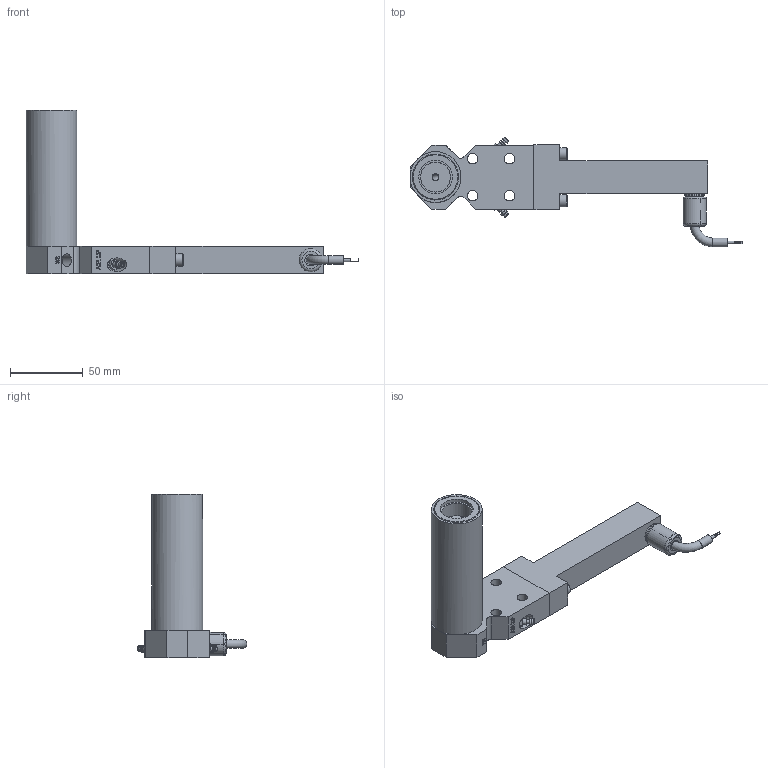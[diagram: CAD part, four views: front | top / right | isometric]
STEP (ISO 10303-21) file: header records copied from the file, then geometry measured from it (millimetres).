
FILE_DESCRIPTION(/* description */ ('ASSY,BODY,VF,LVDT,SXZR3,NHP,LEFT EXIT'),/* implementation_level */ '2;1');
FILE_NAME(/* name */ 'X:\ASSY,BODY,VF,LVDT,SXZR3,NHP,LEFT EXIT_0001582449.stp',/* time_stamp */ '2021-04-13T13:06:58-04:00',/* author */ ('Simon.Britton'),/* organization */ (''),/* preprocessor_version */ 'ST-DEVELOPER v17',/* originating_system */ 'Autodesk Inventor 2019',/* authorisation */ '');
FILE_SCHEMA (('AUTOMOTIVE_DESIGN { 1 0 10303 214 3 1 1 }'));
Length unit declared in the file: millimetre
Products named in the file (1): ASSY,VF,LVDT,SXZR,3,TM,S,NHP,N
Bounding box: 227.99 x 75.3 x 112.6 mm (x, y, z)
Volume: 161546 mm3; surface area: 75437.6 mm2
Topology: 2 solids, 4 shells, 510 faces, 1342 edges, 899 vertices
Faces by surface type: plane 321, cylinder 80, bspline 50, cone 49, torus 10
Full cylindrical faces by diameter (mm): 0.5 x4, 2 x1, 2.381 x2, 3.175 x2, 4 x3, 4.064 x2, 4.216 x4, 4.318 x2, 4.763 x3, 6 x2, 6.35 x2, 7.112 x3, 7.144 x4, 7.798 x1, 8 x1, 8.5 x2, 8.731 x2, 9.525 x2, 10 x1, 12.7 x1, 13.716 x1, 14 x2, 15.206 x1, 15.24 x2, 16 x1, 20.637 x2, 23.019 x1, 28.829 x3, 31.496 x4, 31.623 x1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
Entity records: 17485 total; most frequent: CARTESIAN_POINT 4455, ORIENTED_EDGE 2672, DIRECTION 2396, EDGE_CURVE 1336, VERTEX_POINT 899, LINE 802, VECTOR 802, AXIS2_PLACEMENT_3D 797
